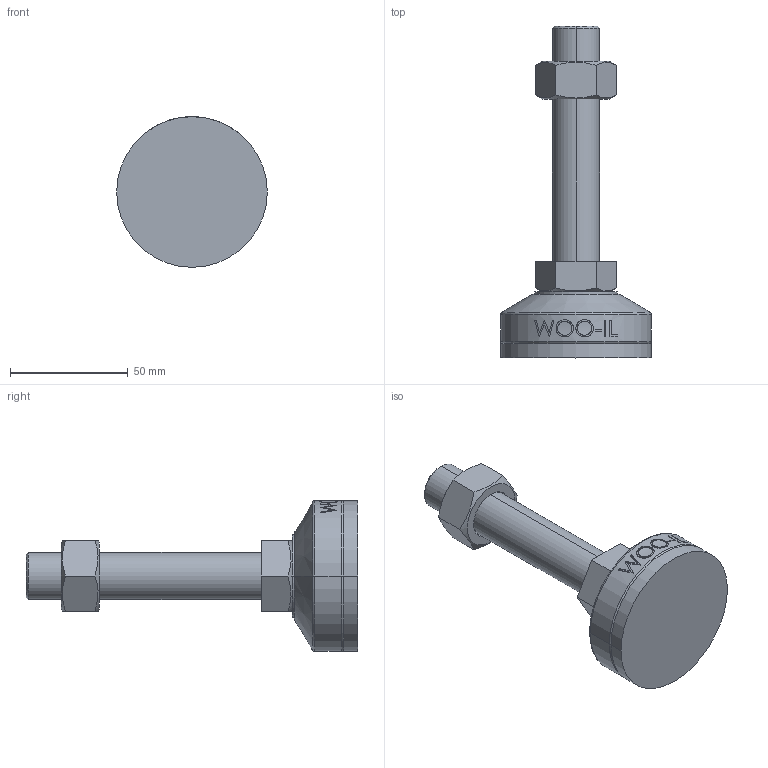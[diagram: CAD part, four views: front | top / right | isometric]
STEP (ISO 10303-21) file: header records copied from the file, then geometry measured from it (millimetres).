
FILE_DESCRIPTION (( 'STEP AP214' ), '1' );
FILE_NAME ('MFZR64-M20-100.step', '2021-03-29T06:56:39', ( '' ), ( '' ), 'SwSTEP 2.0', 'SolidWorks 2019', '' );
FILE_SCHEMA (( 'AUTOMOTIVE_DESIGN' ));
Length unit declared in the file: millimetre
Products named in the file (2): MFZR64-M20-100
Bounding box: 64 x 141 x 64 mm (x, y, z)
Volume: 127160.9 mm3; surface area: 23548.2 mm2
Topology: 3 solids, 3 shells, 102 faces, 239 edges, 154 vertices
Faces by surface type: plane 48, cylinder 18, bspline 16, cone 14, torus 6
Entity records: 4460 total; most frequent: CARTESIAN_POINT 2185, ORIENTED_EDGE 478, DIRECTION 415, EDGE_CURVE 239, AXIS2_PLACEMENT_3D 158, VERTEX_POINT 154, EDGE_LOOP 115, FACE_OUTER_BOUND 102
